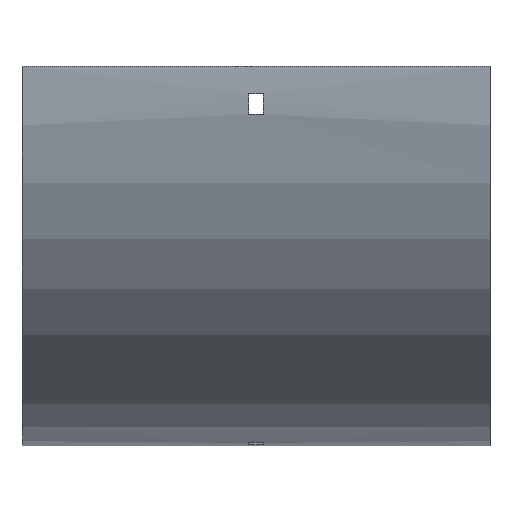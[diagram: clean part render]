
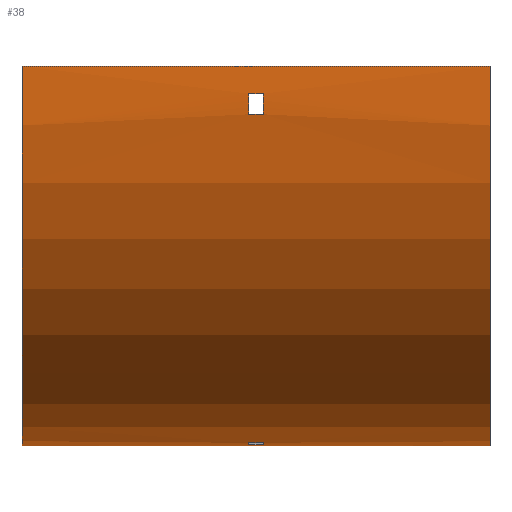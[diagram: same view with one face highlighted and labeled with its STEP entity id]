
A CAD part, front view. The second image highlights one B-rep face of the part: STEP entity #38.
In plain terms, the highlighted cylindrical face has radius 165.5 mm (diameter 331 mm), a partial arc.
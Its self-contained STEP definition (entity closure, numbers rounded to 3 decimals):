
#17 = CARTESIAN_POINT ( 'NONE',  ( 3.25, 79., -164.162 ) ) ;
#24 = CARTESIAN_POINT ( 'NONE',  ( -102., 100., -165.5 ) ) ;
#31 = DIRECTION ( 'NONE',  ( 0., 0., 1. ) ) ;
#38 = ADVANCED_FACE ( 'NONE', ( #773, #157, #1144 ), #615, .T. ) ;
#42 = EDGE_CURVE ( 'NONE', #656, #1026, #600, .T. ) ;
#46 = VECTOR ( 'NONE', #503, 1000. ) ;
#56 = EDGE_LOOP ( 'NONE', ( #1041, #305, #699, #982 ) ) ;
#58 = VERTEX_POINT ( 'NONE', #1040 ) ;
#61 = LINE ( 'NONE', #688, #926 ) ;
#66 = DIRECTION ( 'NONE',  ( 1., 0., 0. ) ) ;
#67 = VECTOR ( 'NONE', #1132, 1000. ) ;
#128 = CARTESIAN_POINT ( 'NONE',  ( -3.25, 100., 0. ) ) ;
#145 = DIRECTION ( 'NONE',  ( 1., 0., 0. ) ) ;
#155 = DIRECTION ( 'NONE',  ( -1., 0., 0. ) ) ;
#157 = FACE_BOUND ( 'NONE', #381, .T. ) ;
#161 = AXIS2_PLACEMENT_3D ( 'NONE', #710, #488, #1150 ) ;
#179 = DIRECTION ( 'NONE',  ( 1., 0., 0. ) ) ;
#191 = VERTEX_POINT ( 'NONE', #718 ) ;
#206 = ORIENTED_EDGE ( 'NONE', *, *, #731, .T. ) ;
#215 = EDGE_CURVE ( 'NONE', #426, #544, #257, .T. ) ;
#216 = DIRECTION ( 'NONE',  ( -1., 0., 0. ) ) ;
#239 = AXIS2_PLACEMENT_3D ( 'NONE', #128, #757, #674 ) ;
#244 = CARTESIAN_POINT ( 'NONE',  ( 102., 100., 0. ) ) ;
#248 = DIRECTION ( 'NONE',  ( 0., 0., -1. ) ) ;
#250 = ORIENTED_EDGE ( 'NONE', *, *, #363, .F. ) ;
#257 = CIRCLE ( 'NONE', #161, 165.5 ) ;
#260 = CARTESIAN_POINT ( 'NONE',  ( -3.25, 79., -164.162 ) ) ;
#274 = CIRCLE ( 'NONE', #419, 165.5 ) ;
#288 = ORIENTED_EDGE ( 'NONE', *, *, #1042, .T. ) ;
#302 = AXIS2_PLACEMENT_3D ( 'NONE', #244, #509, #684 ) ;
#305 = ORIENTED_EDGE ( 'NONE', *, *, #592, .F. ) ;
#314 = AXIS2_PLACEMENT_3D ( 'NONE', #507, #754, #418 ) ;
#321 = VERTEX_POINT ( 'NONE', #328 ) ;
#328 = CARTESIAN_POINT ( 'NONE',  ( 102., -65.5, 0. ) ) ;
#347 = VECTOR ( 'NONE', #216, 1000. ) ;
#355 = ORIENTED_EDGE ( 'NONE', *, *, #763, .T. ) ;
#363 = EDGE_CURVE ( 'NONE', #321, #656, #387, .T. ) ;
#381 = EDGE_LOOP ( 'NONE', ( #288, #206, #355, #1060 ) ) ;
#387 = CIRCLE ( 'NONE', #314, 165.5 ) ;
#391 = CARTESIAN_POINT ( 'NONE',  ( 3.25, 100., 0. ) ) ;
#411 = CARTESIAN_POINT ( 'NONE',  ( 102., -65.064, -12. ) ) ;
#418 = DIRECTION ( 'NONE',  ( 0., 0., -1. ) ) ;
#419 = AXIS2_PLACEMENT_3D ( 'NONE', #464, #179, #995 ) ;
#426 = VERTEX_POINT ( 'NONE', #260 ) ;
#429 = CARTESIAN_POINT ( 'NONE',  ( 102., 100., -165.5 ) ) ;
#464 = CARTESIAN_POINT ( 'NONE',  ( 3.25, 100., 0. ) ) ;
#468 = ORIENTED_EDGE ( 'NONE', *, *, #576, .T. ) ;
#478 = VECTOR ( 'NONE', #155, 1000. ) ;
#487 = CARTESIAN_POINT ( 'NONE',  ( 102., -64.162, -21. ) ) ;
#488 = DIRECTION ( 'NONE',  ( 1., 0., 0. ) ) ;
#493 = AXIS2_PLACEMENT_3D ( 'NONE', #391, #666, #31 ) ;
#497 = DIRECTION ( 'NONE',  ( -1., 0., 0. ) ) ;
#500 = LINE ( 'NONE', #411, #1106 ) ;
#503 = DIRECTION ( 'NONE',  ( 1., 0., 0. ) ) ;
#507 = CARTESIAN_POINT ( 'NONE',  ( 102., 100., 0. ) ) ;
#508 = CARTESIAN_POINT ( 'NONE',  ( 102., 79., -164.162 ) ) ;
#509 = DIRECTION ( 'NONE',  ( -1., 0., 0. ) ) ;
#512 = CIRCLE ( 'NONE', #493, 165.5 ) ;
#533 = VERTEX_POINT ( 'NONE', #17 ) ;
#537 = VERTEX_POINT ( 'NONE', #722 ) ;
#544 = VERTEX_POINT ( 'NONE', #637 ) ;
#576 = EDGE_CURVE ( 'NONE', #321, #967, #61, .T. ) ;
#592 = EDGE_CURVE ( 'NONE', #533, #426, #1045, .T. ) ;
#599 = CARTESIAN_POINT ( 'NONE',  ( 102., 88., -165.064 ) ) ;
#600 = LINE ( 'NONE', #865, #67 ) ;
#615 = CYLINDRICAL_SURFACE ( 'NONE', #302, 165.5 ) ;
#624 = EDGE_CURVE ( 'NONE', #544, #58, #1039, .T. ) ;
#637 = CARTESIAN_POINT ( 'NONE',  ( -3.25, 88., -165.064 ) ) ;
#645 = EDGE_CURVE ( 'NONE', #967, #1026, #850, .T. ) ;
#656 = VERTEX_POINT ( 'NONE', #429 ) ;
#666 = DIRECTION ( 'NONE',  ( -1., 0., 0. ) ) ;
#674 = DIRECTION ( 'NONE',  ( 0., 0., 1. ) ) ;
#684 = DIRECTION ( 'NONE',  ( 0., 0., 1. ) ) ;
#688 = CARTESIAN_POINT ( 'NONE',  ( 102., -65.5, 0. ) ) ;
#699 = ORIENTED_EDGE ( 'NONE', *, *, #1058, .F. ) ;
#708 = EDGE_LOOP ( 'NONE', ( #921, #1139, #250, #468 ) ) ;
#710 = CARTESIAN_POINT ( 'NONE',  ( -3.25, 100., 0. ) ) ;
#718 = CARTESIAN_POINT ( 'NONE',  ( -3.25, -64.162, -21. ) ) ;
#722 = CARTESIAN_POINT ( 'NONE',  ( 3.25, -64.162, -21. ) ) ;
#731 = EDGE_CURVE ( 'NONE', #191, #973, #734, .T. ) ;
#734 = CIRCLE ( 'NONE', #239, 165.5 ) ;
#754 = DIRECTION ( 'NONE',  ( 1., 0., 0. ) ) ;
#757 = DIRECTION ( 'NONE',  ( -1., 0., 0. ) ) ;
#763 = EDGE_CURVE ( 'NONE', #973, #834, #500, .T. ) ;
#773 = FACE_OUTER_BOUND ( 'NONE', #708, .T. ) ;
#823 = CARTESIAN_POINT ( 'NONE',  ( -102., -65.5, 0. ) ) ;
#825 = CARTESIAN_POINT ( 'NONE',  ( -3.25, -65.064, -12. ) ) ;
#834 = VERTEX_POINT ( 'NONE', #962 ) ;
#850 = CIRCLE ( 'NONE', #1071, 165.5 ) ;
#852 = CARTESIAN_POINT ( 'NONE',  ( -102., 100., 0. ) ) ;
#865 = CARTESIAN_POINT ( 'NONE',  ( 102., 100., -165.5 ) ) ;
#918 = LINE ( 'NONE', #487, #347 ) ;
#921 = ORIENTED_EDGE ( 'NONE', *, *, #645, .T. ) ;
#926 = VECTOR ( 'NONE', #497, 1000. ) ;
#962 = CARTESIAN_POINT ( 'NONE',  ( 3.25, -65.064, -12. ) ) ;
#967 = VERTEX_POINT ( 'NONE', #823 ) ;
#973 = VERTEX_POINT ( 'NONE', #825 ) ;
#982 = ORIENTED_EDGE ( 'NONE', *, *, #624, .F. ) ;
#995 = DIRECTION ( 'NONE',  ( 0., 0., -1. ) ) ;
#1026 = VERTEX_POINT ( 'NONE', #24 ) ;
#1039 = LINE ( 'NONE', #599, #46 ) ;
#1040 = CARTESIAN_POINT ( 'NONE',  ( 3.25, 88., -165.064 ) ) ;
#1041 = ORIENTED_EDGE ( 'NONE', *, *, #215, .F. ) ;
#1042 = EDGE_CURVE ( 'NONE', #537, #191, #918, .T. ) ;
#1045 = LINE ( 'NONE', #508, #478 ) ;
#1058 = EDGE_CURVE ( 'NONE', #58, #533, #512, .T. ) ;
#1060 = ORIENTED_EDGE ( 'NONE', *, *, #1107, .T. ) ;
#1071 = AXIS2_PLACEMENT_3D ( 'NONE', #852, #66, #248 ) ;
#1106 = VECTOR ( 'NONE', #145, 1000. ) ;
#1107 = EDGE_CURVE ( 'NONE', #834, #537, #274, .T. ) ;
#1132 = DIRECTION ( 'NONE',  ( -1., 0., 0. ) ) ;
#1139 = ORIENTED_EDGE ( 'NONE', *, *, #42, .F. ) ;
#1144 = FACE_BOUND ( 'NONE', #56, .T. ) ;
#1150 = DIRECTION ( 'NONE',  ( 0., 1., 0. ) ) ;
